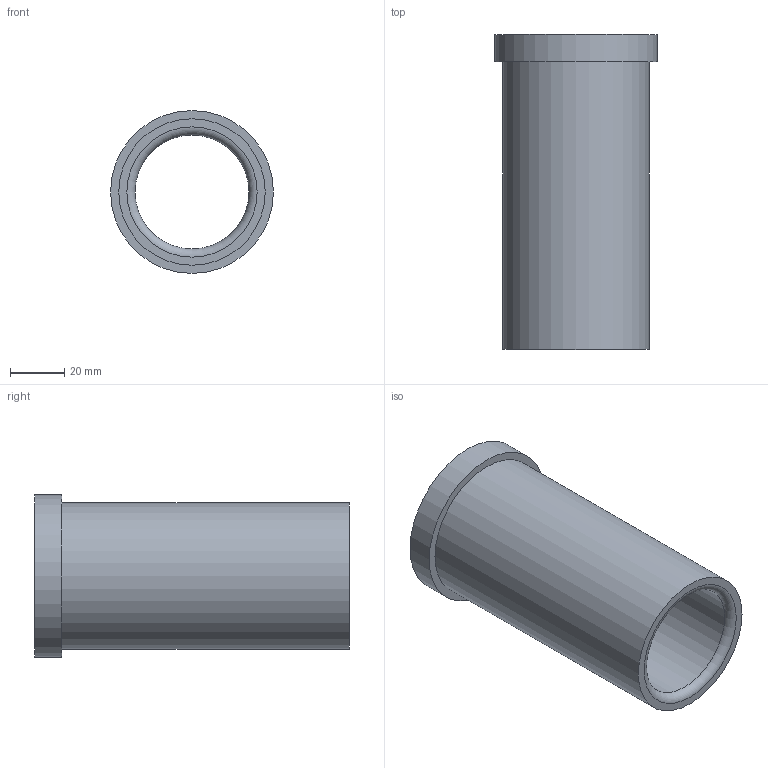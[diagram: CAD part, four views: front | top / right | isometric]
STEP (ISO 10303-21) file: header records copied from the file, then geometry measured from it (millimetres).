
FILE_DESCRIPTION(/* description */ ('STEP AP214'),/* implementation_level */ '2;1');
FILE_NAME(/* name */ '03_12_17958',/* time_stamp */ '2023-06-15T11:35:46+02:00',/* author */ ('License CC BY-ND 4.0'),/* organization */ ('CADENAS'),/* preprocessor_version */ 'ST-DEVELOPER v19.3',/* originating_system */ 'PARTsolutions',/* authorisation */ ' ');
FILE_SCHEMA (('AUTOMOTIVE_DESIGN {1 0 10303 214 3 1 1}'));
Length unit declared in the file: millimetre
Products named in the file (1): VA_Bushing_17958
Bounding box: 60 x 116 x 60 mm (x, y, z)
Volume: 108871.9 mm3; surface area: 37766.8 mm2
Topology: 1 solids, 1 shells, 10 faces, 16 edges, 10 vertices
Faces by surface type: cylinder 4, plane 4, torus 2
Full cylindrical faces by diameter (mm): 42 x1, 42.6 x1, 54 x1, 60 x1
Entity records: 302 total; most frequent: DIRECTION 42, CARTESIAN_POINT 31, AXIS2_PLACEMENT_3D 21, ORIENTED_EDGE 20, EDGE_LOOP 20, FACE_BOUND 20, EDGE_CURVE 10, VERTEX_POINT 10
